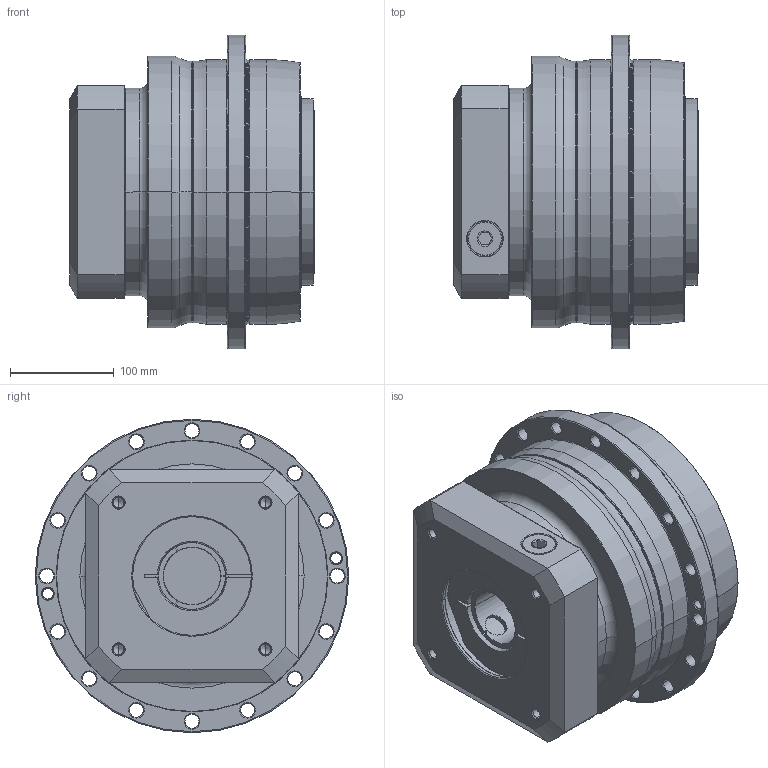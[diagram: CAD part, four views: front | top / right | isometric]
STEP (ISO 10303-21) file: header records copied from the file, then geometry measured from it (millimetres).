
FILE_DESCRIPTION((''),'2;1');
FILE_NAME('AH255_1ST_55-P0409C00101_ASM','2016-10-06T',('d00435'),(''),'PRO/ENGINEER BY PARAMETRIC TECHNOLOGY CORPORATION, 2008410','PRO/ENGINEER BY PARAMETRIC TECHNOLOGY CORPORATION, 2008410','');
FILE_SCHEMA(('CONFIG_CONTROL_DESIGN'));
Length unit declared in the file: millimetre
Products named in the file (8): P0278700003; P0359700003; P1318700401; P0409C00101; P0503C00016; P0912704201; 21711426021; AH255_1ST_55-P0409C00101_ASM
Assembly tree (7 placements, depth 2):
  AH255_1ST_55-P0409C00101_ASM
    P0278700003
    P0359700003
    P1318700401
    P0409C00101
    P0503C00016
    P0912704201
    21711426021
Bounding box: 235.5 x 302 x 302 mm (x, y, z)
Volume: 9930097.6 mm3; surface area: 812761.7 mm2
Topology: 8 solids, 34 shells, 648 faces, 1531 edges, 925 vertices
Faces by surface type: cylinder 268, cone 190, plane 116, torus 60, bspline 14
Entity records: 23340 total; most frequent: CARTESIAN_POINT 7958, DIRECTION 3535, ORIENTED_EDGE 2866, AXIS2_PLACEMENT_3D 1503, EDGE_CURVE 1485, VERTEX_POINT 925, CIRCLE 842, EDGE_LOOP 770
